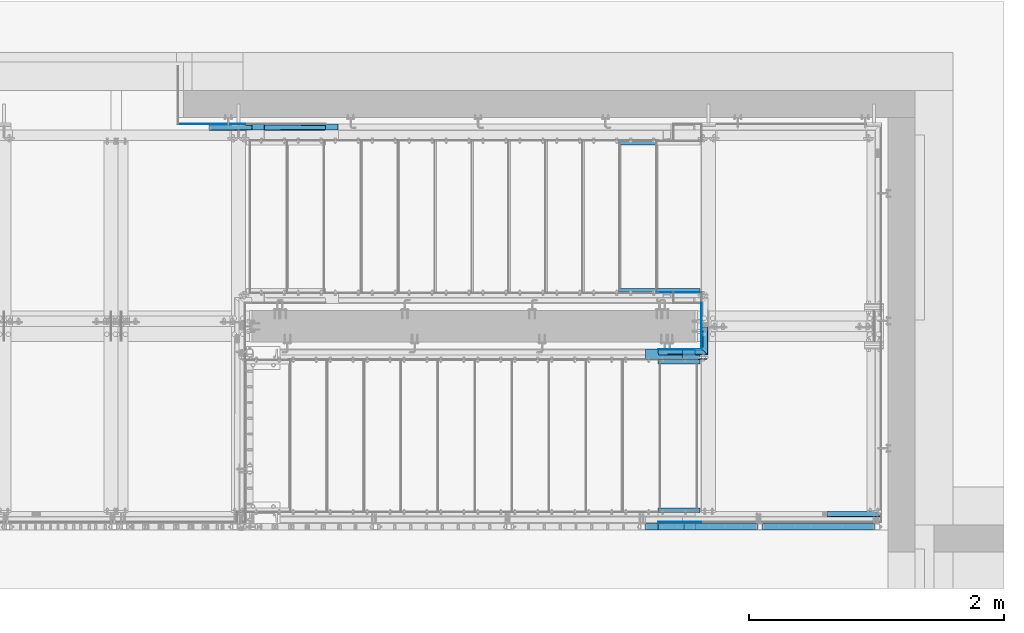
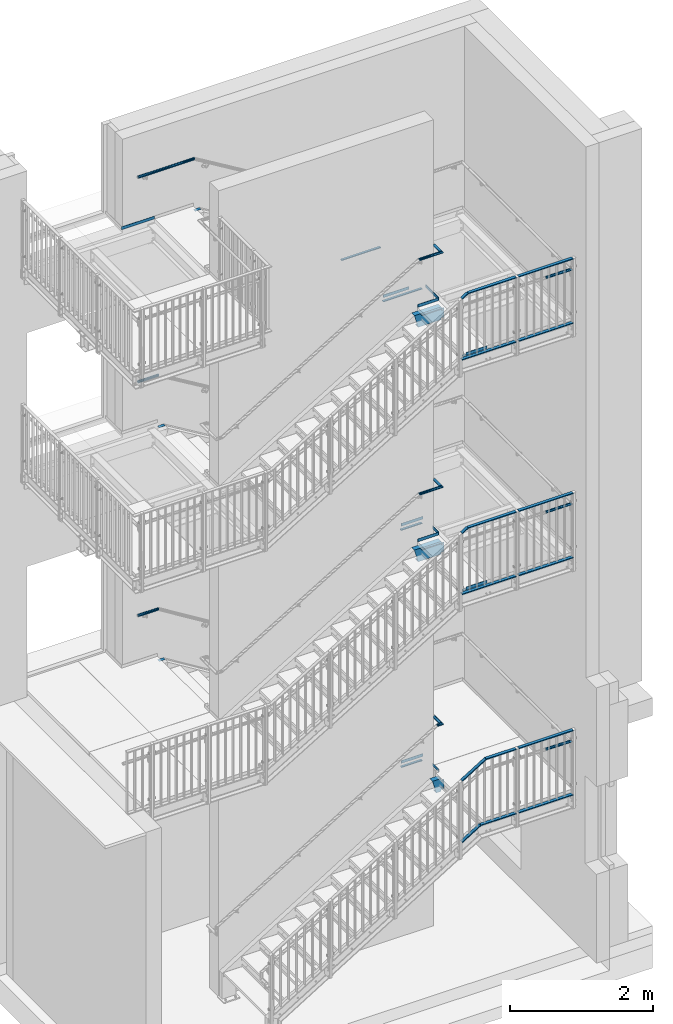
# One storey, part 43 of 410: 50 beams, 4 members, 12 openings.
"""IFC2X3 building model written with IfcOpenShell, lengths in millimetres."""

from ifc_helpers import new_model, entity, si_unit, converted_unit, point, frame, frame_2d, origin, origin_with_axes, origin_2d, origin_2d_with_axis, place, context, project, spatial, circle_curve, line_curve, trimmed, segment, composite_curve, rectangle, circle, hollow_circle, u_section, outline, extrude, clip, halfspace, material, element, save


model = new_model("IFC2X3")

# Units and contexts
model_context = context("Model", 3, precision=1e-09, world=origin_with_axes())
ifc_project = project(units=[si_unit("LENGTHUNIT", "METRE", prefix="MILLI"), si_unit("AREAUNIT", "SQUARE_METRE"), si_unit("VOLUMEUNIT", "CUBIC_METRE"), converted_unit("PLANEANGLEUNIT", "DEGREE", entity("IfcPlaneAngleMeasure", 0.01745329), si_unit("PLANEANGLEUNIT", "RADIAN"), dimensions=[0, 0, 0, 0, 0, 0, 0])], contexts=[model_context])

# Site, building, storey
site_placement = place(None, origin_with_axes())
site = spatial("IfcSite", under=ifc_project, at=site_placement, Name="mKR Teilneubau & Sanierung BA1 - Ostfildern", CompositionType="ELEMENT")
building_placement = place(site_placement, origin_with_axes())
building = spatial("IfcBuilding", under=site, at=building_placement, Name="Struktur 1", CompositionType="ELEMENT")
storey_placement = place(building_placement, origin_with_axes())
storey = spatial("IfcBuildingStorey", under=building, at=storey_placement, Name="Default Storey", CompositionType="ELEMENT", Elevation=0.0)

# Beam, openings
ifc_material = material(Name="S235JR")
beam_1_placement = place(None, frame((2094.098467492, 16741.399999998, -2315.6), z_axis=(-1.0, 0.0, 0.0), x_axis=(0.0, 1.0, 0.0)))
beam_1 = element("IfcBeam", 1, at=beam_1_placement, inside=storey, material=ifc_material, Name="-", ObjectType="-", context=model_context, shape_type="Clipping", body=[
    clip(clip(extrude(u_section(Depth=220.0, FlangeWidth=80.0, WebThickness=9.0, FlangeThickness=12.5, FilletRadius=12.5, EdgeRadius=6.0, FlangeSlope=4.574, at=frame_2d((18.6, 0.0))), origin(), (0.0, 0.0, 1.0), 652.408676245), halfspace(frame((-16741.399999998, -2315.6, 227.047999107), z_axis=(0.0, 0.0, 1.0), x_axis=(-1.0, 0.0, 0.0)), True)), halfspace(frame((-16741.399999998, -2591.759085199, 1119.989531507), z_axis=(0.0, -0.272750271, -0.962084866), x_axis=(1.0, 0.0, 0.0)), True)),
])
opening_1_placement = place(beam_1_placement, frame((-1481.4, -80.000000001, 226.246999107), z_axis=(-1.0, 0.0, 0.0), x_axis=(0.0, -1.0, 0.0)))
element("IfcOpeningElement", 2, at=opening_1_placement, cuts=beam_1, ObjectType="Opening", context=model_context, shape_type="SweptSolid", body=[
    extrude(outline(composite_curve([segment(trimmed(line_curve((0.0, 0.0), (1.0, 0.0), 30.799999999), [point((0.0, 0.0))], [point((30.799999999, 0.0))], True, "CARTESIAN"), True, "CONTINUOUS"), segment(trimmed(line_curve((30.799999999, 0.0), (0.0, 1.0), 52.85), [point((30.799999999, 0.0))], [point((30.799999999, 52.85))], True, "CARTESIAN"), True, "CONTINUOUS"), segment(trimmed(line_curve((30.799999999, 52.85), (-1.0, 0.0), 25.799999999), [point((30.799999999, 52.85))], [point((5.0, 52.85))], True, "CARTESIAN"), True, "CONTINUOUS"), segment(trimmed(circle_curve(frame_2d((5.0, 47.85), x_axis=(1.0, 0.0)), 5.0), [point((5.0, 52.85))], [point((0.0, 47.85))], True, "CARTESIAN"), True, "CONTINUOUS"), segment(trimmed(line_curve((0.0, 47.85), (0.0, -1.0), 47.85), [point((0.0, 47.85))], [point((0.0, 0.0))], True, "CARTESIAN"), True, "CONTINUOUS")], self_intersect=False)), origin(), (0.0, 0.0, -1.0), 3000.0),
])
opening_2_placement = place(beam_1_placement, frame((1518.6, 79.999999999, 226.246999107), z_axis=(1.0, 0.0, 0.0), x_axis=(0.0, 1.0, 0.0)))
element("IfcOpeningElement", 3, at=opening_2_placement, cuts=beam_1, ObjectType="Opening", context=model_context, shape_type="SweptSolid", body=[
    extrude(outline(composite_curve([segment(trimmed(line_curve((0.0, 0.0), (1.0, 0.0), 30.800000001), [point((0.0, 0.0))], [point((30.800000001, 0.0))], True, "CARTESIAN"), True, "CONTINUOUS"), segment(trimmed(line_curve((30.800000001, 0.0), (0.0, 1.0), 52.85), [point((30.800000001, 0.0))], [point((30.800000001, 52.85))], True, "CARTESIAN"), True, "CONTINUOUS"), segment(trimmed(line_curve((30.800000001, 52.85), (-1.0, 0.0), 25.800000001), [point((30.800000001, 52.85))], [point((5.0, 52.85))], True, "CARTESIAN"), True, "CONTINUOUS"), segment(trimmed(circle_curve(frame_2d((5.0, 47.85), x_axis=(1.0, 0.0)), 5.0), [point((5.0, 52.85))], [point((0.0, 47.85))], True, "CARTESIAN"), True, "CONTINUOUS"), segment(trimmed(line_curve((0.0, 47.85), (0.0, -1.0), 47.85), [point((0.0, 47.85))], [point((0.0, 0.0))], True, "CARTESIAN"), True, "CONTINUOUS")], self_intersect=False)), origin(), (0.0, 0.0, -1.0), 3000.0),
])
opening_3_placement = place(beam_1_placement, frame((-11.9, -50.0, 258.046999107), z_axis=(-1.0, 0.0, 0.0), x_axis=(0.0, 0.0, 1.0)))
element("IfcOpeningElement", 4, at=opening_3_placement, cuts=beam_1, ObjectType="Opening", context=model_context, shape_type="SweptSolid", body=[
    extrude(circle(Radius=9.001, at=frame_2d((0.0, 100.0), x_axis=(1.0, 0.0))), origin(), (0.0, 0.0, 1.0), 10.0),
])
opening_4_placement = place(beam_1_placement, frame((-11.9, -50.0, 258.046999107), z_axis=(-1.0, 0.0, 0.0), x_axis=(0.0, 0.0, 1.0)))
element("IfcOpeningElement", 5, at=opening_4_placement, cuts=beam_1, ObjectType="Opening", context=model_context, shape_type="SweptSolid", body=[
    extrude(circle(Radius=9.001, at=origin_2d_with_axis()), origin(), (0.0, 0.0, 1.0), 10.0),
])

beam_2_placement = place(None, frame((1149.361590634, 16741.399999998, 1743.0434785), z_axis=(1.0, 0.0, 0.0), x_axis=(0.0, 1.0, 0.0)))
beam_2 = element("IfcBeam", 6, at=beam_2_placement, inside=storey, material=ifc_material, Name="-", ObjectType="-", context=model_context, shape_type="Clipping", body=[
    clip(clip(extrude(u_section(Depth=220.0, FlangeWidth=80.0, WebThickness=9.0, FlangeThickness=12.5, FilletRadius=12.5, EdgeRadius=6.0, FlangeSlope=4.574, at=frame_2d((18.6, 0.0))), origin(), (0.0, 0.0, 1.0), 944.736876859), halfspace(frame((-16741.399999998, -1743.0434785, 717.688877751), z_axis=(0.0, 0.0, -1.0), x_axis=(-1.0, 0.0, 0.0)), True)), halfspace(frame((-16741.399999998, -1254.967899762, 613.50163448), z_axis=(0.0, 0.266827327, 0.963744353), x_axis=(1.0, 0.0, 0.0)), True)),
])
opening_5_placement = place(beam_2_placement, frame((-1481.4, 80.000000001, 718.489877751), z_axis=(-1.0, 0.0, 0.0), x_axis=(0.0, 1.0, 0.0)))
element("IfcOpeningElement", 7, at=opening_5_placement, cuts=beam_2, ObjectType="Opening", context=model_context, shape_type="SweptSolid", body=[
    extrude(outline(composite_curve([segment(trimmed(line_curve((0.0, 0.0), (1.0, 0.0), 30.799999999), [point((0.0, 0.0))], [point((30.799999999, 0.0))], True, "CARTESIAN"), True, "CONTINUOUS"), segment(trimmed(line_curve((30.799999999, 0.0), (0.0, 1.0), 52.85), [point((30.799999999, 0.0))], [point((30.799999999, 52.85))], True, "CARTESIAN"), True, "CONTINUOUS"), segment(trimmed(line_curve((30.799999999, 52.85), (-1.0, 0.0), 25.799999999), [point((30.799999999, 52.85))], [point((5.0, 52.85))], True, "CARTESIAN"), True, "CONTINUOUS"), segment(trimmed(circle_curve(frame_2d((5.0, 47.85), x_axis=(1.0, 0.0)), 5.0), [point((5.0, 52.85))], [point((0.0, 47.85))], True, "CARTESIAN"), True, "CONTINUOUS"), segment(trimmed(line_curve((0.0, 47.85), (0.0, -1.0), 47.85), [point((0.0, 47.85))], [point((0.0, 0.0))], True, "CARTESIAN"), True, "CONTINUOUS")], self_intersect=False)), origin(), (0.0, 0.0, -1.0), 3000.0),
])
opening_6_placement = place(beam_2_placement, frame((1518.6, -79.999999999, 718.489877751), z_axis=(1.0, 0.0, 0.0), x_axis=(0.0, -1.0, 0.0)))
element("IfcOpeningElement", 8, at=opening_6_placement, cuts=beam_2, ObjectType="Opening", context=model_context, shape_type="SweptSolid", body=[
    extrude(outline(composite_curve([segment(trimmed(line_curve((0.0, 0.0), (1.0, 0.0), 30.800000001), [point((0.0, 0.0))], [point((30.800000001, 0.0))], True, "CARTESIAN"), True, "CONTINUOUS"), segment(trimmed(line_curve((30.800000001, 0.0), (0.0, 1.0), 52.85), [point((30.800000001, 0.0))], [point((30.800000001, 52.85))], True, "CARTESIAN"), True, "CONTINUOUS"), segment(trimmed(line_curve((30.800000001, 52.85), (-1.0, 0.0), 25.800000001), [point((30.800000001, 52.85))], [point((5.0, 52.85))], True, "CARTESIAN"), True, "CONTINUOUS"), segment(trimmed(circle_curve(frame_2d((5.0, 47.85), x_axis=(1.0, 0.0)), 5.0), [point((5.0, 52.85))], [point((0.0, 47.85))], True, "CARTESIAN"), True, "CONTINUOUS"), segment(trimmed(line_curve((0.0, 47.85), (0.0, -1.0), 47.85), [point((0.0, 47.85))], [point((0.0, 0.0))], True, "CARTESIAN"), True, "CONTINUOUS")], self_intersect=False)), origin(), (0.0, 0.0, -1.0), 3000.0),
])
opening_7_placement = place(beam_2_placement, frame((-11.9, 50.0, 686.689877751), z_axis=(-1.0, 0.0, 0.0), x_axis=(0.0, 0.0, -1.0)))
element("IfcOpeningElement", 9, at=opening_7_placement, cuts=beam_2, ObjectType="Opening", context=model_context, shape_type="SweptSolid", body=[
    extrude(circle(Radius=9.001, at=frame_2d((0.0, 100.0), x_axis=(1.0, 0.0))), origin(), (0.0, 0.0, 1.0), 10.0),
])
opening_8_placement = place(beam_2_placement, frame((-11.9, 50.0, 686.689877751), z_axis=(-1.0, 0.0, 0.0), x_axis=(0.0, 0.0, -1.0)))
element("IfcOpeningElement", 10, at=opening_8_placement, cuts=beam_2, ObjectType="Opening", context=model_context, shape_type="SweptSolid", body=[
    extrude(circle(Radius=9.001, at=origin_2d_with_axis()), origin(), (0.0, 0.0, 1.0), 10.0),
])

beam_3_placement = place(None, frame((2094.098467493, 16741.399999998, 5755.0), z_axis=(-1.0, 0.0, 0.0), x_axis=(0.0, 1.0, 0.0)))
beam_3 = element("IfcBeam", 11, at=beam_3_placement, inside=storey, material=ifc_material, Name="-", ObjectType="-", context=model_context, shape_type="Clipping", body=[
    clip(clip(extrude(u_section(Depth=220.0, FlangeWidth=80.0, WebThickness=9.0, FlangeThickness=12.5, FilletRadius=12.5, EdgeRadius=6.0, FlangeSlope=4.574, at=frame_2d((18.6, 0.0))), origin(), (0.0, 0.0, 1.0), 944.20546182), halfspace(frame((-16741.399999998, 5755.0, 227.047999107), z_axis=(0.0, 0.0, 1.0), x_axis=(-1.0, 0.0, 0.0)), True)), halfspace(frame((-16741.399999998, 4975.331939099, -706.962808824), z_axis=(0.0, -0.268153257, -0.963376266), x_axis=(1.0, 0.0, 0.0)), True)),
])
opening_9_placement = place(beam_3_placement, frame((-1481.4, -80.000000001, 226.246999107), z_axis=(-1.0, 0.0, 0.0), x_axis=(0.0, -1.0, 0.0)))
element("IfcOpeningElement", 12, at=opening_9_placement, cuts=beam_3, ObjectType="Opening", context=model_context, shape_type="SweptSolid", body=[
    extrude(outline(composite_curve([segment(trimmed(line_curve((0.0, 0.0), (1.0, 0.0), 30.799999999), [point((0.0, 0.0))], [point((30.799999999, 0.0))], True, "CARTESIAN"), True, "CONTINUOUS"), segment(trimmed(line_curve((30.799999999, 0.0), (0.0, 1.0), 52.85), [point((30.799999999, 0.0))], [point((30.799999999, 52.85))], True, "CARTESIAN"), True, "CONTINUOUS"), segment(trimmed(line_curve((30.799999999, 52.85), (-1.0, 0.0), 25.799999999), [point((30.799999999, 52.85))], [point((5.0, 52.85))], True, "CARTESIAN"), True, "CONTINUOUS"), segment(trimmed(circle_curve(frame_2d((5.0, 47.85), x_axis=(1.0, 0.0)), 5.0), [point((5.0, 52.85))], [point((0.0, 47.85))], True, "CARTESIAN"), True, "CONTINUOUS"), segment(trimmed(line_curve((0.0, 47.85), (0.0, -1.0), 47.85), [point((0.0, 47.85))], [point((0.0, 0.0))], True, "CARTESIAN"), True, "CONTINUOUS")], self_intersect=False)), origin(), (0.0, 0.0, -1.0), 3000.0),
])
opening_10_placement = place(beam_3_placement, frame((1518.6, 79.999999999, 226.246999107), z_axis=(1.0, 0.0, 0.0), x_axis=(0.0, 1.0, 0.0)))
element("IfcOpeningElement", 13, at=opening_10_placement, cuts=beam_3, ObjectType="Opening", context=model_context, shape_type="SweptSolid", body=[
    extrude(outline(composite_curve([segment(trimmed(line_curve((0.0, 0.0), (1.0, 0.0), 30.800000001), [point((0.0, 0.0))], [point((30.800000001, 0.0))], True, "CARTESIAN"), True, "CONTINUOUS"), segment(trimmed(line_curve((30.800000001, 0.0), (0.0, 1.0), 52.85), [point((30.800000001, 0.0))], [point((30.800000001, 52.85))], True, "CARTESIAN"), True, "CONTINUOUS"), segment(trimmed(line_curve((30.800000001, 52.85), (-1.0, 0.0), 25.800000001), [point((30.800000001, 52.85))], [point((5.0, 52.85))], True, "CARTESIAN"), True, "CONTINUOUS"), segment(trimmed(circle_curve(frame_2d((5.0, 47.85), x_axis=(1.0, 0.0)), 5.0), [point((5.0, 52.85))], [point((0.0, 47.85))], True, "CARTESIAN"), True, "CONTINUOUS"), segment(trimmed(line_curve((0.0, 47.85), (0.0, -1.0), 47.85), [point((0.0, 47.85))], [point((0.0, 0.0))], True, "CARTESIAN"), True, "CONTINUOUS")], self_intersect=False)), origin(), (0.0, 0.0, -1.0), 3000.0),
])
opening_11_placement = place(beam_3_placement, frame((-11.9, -50.0, 258.046999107), z_axis=(-1.0, 0.0, 0.0), x_axis=(0.0, 0.0, 1.0)))
element("IfcOpeningElement", 14, at=opening_11_placement, cuts=beam_3, ObjectType="Opening", context=model_context, shape_type="SweptSolid", body=[
    extrude(circle(Radius=9.001, at=frame_2d((0.0, 100.0), x_axis=(1.0, 0.0))), origin(), (0.0, 0.0, 1.0), 10.0),
])
opening_12_placement = place(beam_3_placement, frame((-11.9, -50.0, 258.046999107), z_axis=(-1.0, 0.0, 0.0), x_axis=(0.0, 0.0, 1.0)))
element("IfcOpeningElement", 15, at=opening_12_placement, cuts=beam_3, ObjectType="Opening", context=model_context, shape_type="SweptSolid", body=[
    extrude(circle(Radius=9.001, at=origin_2d_with_axis()), origin(), (0.0, 0.0, 1.0), 10.0),
])

# Beams
beam_4_placement = place(None, frame((1183.477862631, 18422.499999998, 5857.5), z_axis=(-1.0, 0.0, 0.0), x_axis=(0.0, 0.0, -1.0)))
element("IfcBeam", 16, at=beam_4_placement, inside=storey, material=ifc_material, Name="-", ObjectType="-", context=model_context, shape_type="SweptSolid", body=[
    extrude(rectangle(XDim=15.0, YDim=35.0, at=origin_2d()), origin(), (0.0, 0.0, -1.0), 631.523605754),
])
for number, where, z_axis, x_axis in (
    (17, (1485.0, 16702.499999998, 1845.5434785), (1.0, 0.0, 0.0), (0.0, 0.0, 1.0)),
    (18, (1485.0, 16702.499999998, 5857.5), (1.0, 0.0, 0.0), (0.0, 0.0, 1.0)),
):
    element("IfcBeam", number, at=place(None, frame(where, z_axis=z_axis, x_axis=x_axis)), inside=storey, material=ifc_material, Name="-", ObjectType="-", context=model_context, shape_type="SweptSolid", body=[
        extrude(rectangle(XDim=15.0, YDim=35.0, at=origin_2d()), origin(), (0.0, 0.0, 1.0), 330.001468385),
    ])
beam_5_placement = place(None, frame((1183.477862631, 17257.499999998, 5857.5), z_axis=(-1.0, 0.0, 0.0), x_axis=(0.0, 0.0, 1.0)))
element("IfcBeam", 19, at=beam_5_placement, inside=storey, material=ifc_material, Name="-", ObjectType="-", context=model_context, shape_type="SweptSolid", body=[
    extrude(rectangle(XDim=15.0, YDim=35.0, at=origin_2d()), origin(), (0.0, 0.0, -1.0), 631.523605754),
])
for number, where, z_axis, x_axis in (
    (20, (1485.0, 15537.499999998, 5857.5), (1.0, 0.0, 0.0), (0.0, 0.0, -1.0)),
    (21, (1485.0, 15537.499999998, 1845.5434785), (1.0, 0.0, 0.0), (0.0, 0.0, -1.0)),
):
    element("IfcBeam", number, at=place(None, frame(where, z_axis=z_axis, x_axis=x_axis)), inside=storey, material=ifc_material, Name="-", ObjectType="-", context=model_context, shape_type="SweptSolid", body=[
        extrude(rectangle(XDim=15.0, YDim=35.0, at=origin_2d()), origin(), (0.0, 0.0, 1.0), 330.001468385),
    ])
beam_6_placement = place(None, frame((1472.302143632, 17257.499999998, 1845.5434785), z_axis=(-1.0, 0.0, 0.0), x_axis=(0.0, 0.0, 1.0)))
element("IfcBeam", 22, at=beam_6_placement, inside=storey, material=ifc_material, Name="-", ObjectType="-", context=model_context, shape_type="SweptSolid", body=[
    extrude(rectangle(XDim=15.0, YDim=35.0, at=origin_2d()), origin(), (0.0, 0.0, -1.0), 342.698324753),
])
beam_7_placement = place(None, frame((1477.451209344, 17257.499999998, -2213.1), z_axis=(-1.0, 0.0, 0.0), x_axis=(0.0, 0.0, 1.0)))
element("IfcBeam", 23, at=beam_7_placement, inside=storey, material=ifc_material, Name="-", ObjectType="-", context=model_context, shape_type="SweptSolid", body=[
    extrude(rectangle(XDim=15.0, YDim=35.0, at=origin_2d()), origin(), (0.0, 0.0, -1.0), 337.549259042),
])
for number, where, z_axis, x_axis in (
    (24, (2305.501468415, 15405.999999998, 7017.5), (-1.0, 0.0, 0.0), (0.0, 0.0, -1.0)),
    (25, (3184.501468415, 15405.999999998, 5917.5), (1.0, 0.0, 0.0), (0.0, 0.0, 1.0)),
    (26, (2305.501468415, 15405.999999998, -1053.1), (-1.0, 0.0, 0.0), (0.0, 0.0, -1.0)),
    (27, (3184.501468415, 15405.999999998, -2153.1), (1.0, 0.0, 0.0), (0.0, 0.0, 1.0)),
):
    element("IfcBeam", number, at=place(None, frame(where, z_axis=z_axis, x_axis=x_axis)), inside=storey, material=ifc_material, Name="-", ObjectType="-", context=model_context, shape_type="SweptSolid", body=[
        extrude(rectangle(XDim=15.0, YDim=50.0, at=origin_2d()), origin(), (0.0, 0.0, -1.0), 879.0),
    ])
beam_8_placement = place(None, frame((1184.0, 17243.999999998, 5950.0), z_axis=(-1.0, 0.0, 0.0), x_axis=(0.0, -1.0, 0.0)))
element("IfcBeam", 28, at=beam_8_placement, inside=storey, material=ifc_material, Name="-", ObjectType="-", context=model_context, shape_type="SweptSolid", body=[
    extrude(rectangle(XDim=4.0, YDim=50.0, at=origin_2d()), origin(), (0.0, 0.0, -1.0), 419.002468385),
])
for number, where, z_axis, x_axis in (
    (29, (1474.0, 17243.999999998, 1938.0434785), (-1.0, 0.0, 0.0), (0.0, -1.0, 0.0)),
    (30, (1474.0, 17243.999999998, -2120.6), (-1.0, 0.0, 0.0), (0.0, -1.0, 0.0)),
):
    element("IfcBeam", number, at=place(None, frame(where, z_axis=z_axis, x_axis=x_axis)), inside=storey, material=ifc_material, Name="-", ObjectType="-", context=model_context, shape_type="SweptSolid", body=[
        extrude(rectangle(XDim=4.0, YDim=50.0, at=origin_2d()), origin(), (0.0, 0.0, -1.0), 349.001468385),
    ])
for number, where, z_axis, x_axis in (
    (31, (1485.0, 16797.999999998, 1938.0434785), (-1.0, 0.0, 0.0), (0.0, -1.0, 0.0)),
    (32, (1485.0, 16797.999999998, 5950.0), (-1.0, 0.0, 0.0), (0.0, -1.0, 0.0)),
):
    element("IfcBeam", number, at=place(None, frame(where, z_axis=z_axis, x_axis=x_axis)), inside=storey, material=ifc_material, Name="-", ObjectType="-", context=model_context, shape_type="SweptSolid", body=[
        extrude(rectangle(XDim=4.0, YDim=50.0, at=origin_2d()), origin(), (0.0, 0.0, -1.0), 338.001468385),
    ])
beam_9_placement = place(None, frame((-1754.998529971, 18567.999459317, 7525.0), z_axis=(1.0, 8.64e-07, 0.0), x_axis=(-8.64e-07, 1.0, 0.0)))
element("IfcBeam", 33, at=beam_9_placement, inside=storey, material=ifc_material, Name="-", ObjectType="-", context=model_context, shape_type="SweptSolid", body=[
    extrude(rectangle(XDim=4.0, YDim=50.0, at=origin_2d()), origin(), (0.0, 0.0, -1.0), 531.498847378),
])
beam_10_placement = place(None, frame((1827.001468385, 16979.0, -2120.6), z_axis=(0.0, 1.0, 0.0), x_axis=(-1.0, 0.0, 0.0)))
element("IfcBeam", 34, at=beam_10_placement, inside=storey, material=ifc_material, Name="-", ObjectType="-", context=model_context, shape_type="SweptSolid", body=[
    extrude(rectangle(XDim=4.0, YDim=50.0, at=origin_2d()), origin(), (0.0, 0.0, -1.0), 179.001000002),
])
beam_11_placement = place(None, frame((1827.001468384, 16978.999999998, 1938.0434785), z_axis=(0.0, 1.0, 0.0), x_axis=(-1.0, 0.0, 0.0)))
element("IfcBeam", 35, at=beam_11_placement, inside=storey, material=ifc_material, Name="-", ObjectType="-", context=model_context, shape_type="SweptSolid", body=[
    extrude(rectangle(XDim=4.0, YDim=50.0, at=origin_2d()), origin(), (0.0, 0.0, -1.0), 183.000000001),
])
beam_12_placement = place(None, frame((1485.0, 15441.999999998, 1938.0434785), z_axis=(-1.0, 0.0, 0.0), x_axis=(0.0, -1.0, 0.0)))
element("IfcBeam", 36, at=beam_12_placement, inside=storey, material=ifc_material, Name="-", ObjectType="-", context=model_context, shape_type="SweptSolid", body=[
    extrude(rectangle(XDim=4.0, YDim=50.0, at=origin_2d()), origin(), (0.0, 0.0, -1.0), 338.001468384),
])
beam_13_placement = place(None, frame((1485.0, 15441.999999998, 5950.0), z_axis=(-1.0, 0.0, 0.0), x_axis=(0.0, -1.0, 0.0)))
element("IfcBeam", 37, at=beam_13_placement, inside=storey, material=ifc_material, Name="-", ObjectType="-", context=model_context, shape_type="SweptSolid", body=[
    extrude(rectangle(XDim=4.0, YDim=50.0, at=origin_2d()), origin(), (0.0, 0.0, -1.0), 338.001468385),
])
beam_14_placement = place(None, frame((1827.001468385, 17163.999999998, 5950.0), z_axis=(0.0, 1.0, 0.0), x_axis=(-1.0, 0.0, 0.0)))
element("IfcBeam", 38, at=beam_14_placement, inside=storey, material=ifc_material, Name="-", ObjectType="-", context=model_context, shape_type="SweptSolid", body=[
    extrude(rectangle(XDim=4.0, YDim=50.0, at=origin_2d()), origin(), (0.0, 0.0, -1.0), 182.999999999),
])
beam_15_placement = place(None, frame((1827.001468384, 16978.999999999, 5950.0), z_axis=(0.0, 1.0, 0.0), x_axis=(-1.0, 0.0, 0.0)))
element("IfcBeam", 39, at=beam_15_placement, inside=storey, material=ifc_material, Name="-", ObjectType="-", context=model_context, shape_type="SweptSolid", body=[
    extrude(rectangle(XDim=4.0, YDim=50.0, at=origin_2d()), origin(), (0.0, 0.0, -1.0), 183.000000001),
])
beam_16_placement = place(None, frame((-1125.000153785, 18544.999427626, 7437.49977066), z_axis=(-1.0, -5.838e-06, 3.131e-06), x_axis=(3.131e-06, 0.0, 1.0)))
element("IfcBeam", 40, at=beam_16_placement, inside=storey, material=ifc_material, Name="-", ObjectType="-", context=model_context, shape_type="SweptSolid", body=[
    extrude(rectangle(XDim=5.0, YDim=50.0, at=origin_2d()), origin(), (0.0, 0.0, -1.0), 98.037723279),
])
beam_17_placement = place(None, frame((-1606.333490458, 18544.999999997, 3937.499466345), z_axis=(1.0, 2.095e-06, -1.118e-06), x_axis=(-1.118e-06, 0.0, -1.0)))
element("IfcBeam", 41, at=beam_17_placement, inside=storey, material=ifc_material, Name="-", ObjectType="-", context=model_context, shape_type="SweptSolid", body=[
    extrude(rectangle(XDim=5.0, YDim=50.0, at=origin_2d()), origin(), (0.0, 0.0, -1.0), 98.666564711),
])
beam_18_placement = place(None, frame((-1705.000002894, 18544.999999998, -62.500434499), z_axis=(-1.0, 0.0, 1.158e-06), x_axis=(1.158e-06, 0.0, 1.0)))
element("IfcBeam", 42, at=beam_18_placement, inside=storey, material=ifc_material, Name="-", ObjectType="-", context=model_context, shape_type="SweptSolid", body=[
    extrude(rectangle(XDim=5.0, YDim=50.0, at=origin_2d()), origin(), (0.0, 0.0, -1.0), 95.896746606),
])
beam_19_placement = place(None, frame((1385.501468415, 15405.999999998, 5917.5), z_axis=(-1.0, 0.0, 0.0), x_axis=(0.0, 0.0, -1.0)))
element("IfcBeam", 43, at=beam_19_placement, inside=storey, material=ifc_material, Name="-", ObjectType="-", context=model_context, shape_type="SweptSolid", body=[
    extrude(rectangle(XDim=15.0, YDim=50.0, at=origin_2d()), origin(), (0.0, 0.0, -1.0), 879.0),
])
beam_20_placement = place(None, frame((2264.501468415, 15405.999999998, 7017.5), z_axis=(1.0, 0.0, 0.0), x_axis=(0.0, 0.0, 1.0)))
element("IfcBeam", 44, at=beam_20_placement, inside=storey, material=ifc_material, Name="-", ObjectType="-", context=model_context, shape_type="SweptSolid", body=[
    extrude(rectangle(XDim=15.0, YDim=50.0, at=origin_2d()), origin(), (0.0, 0.0, -1.0), 775.32625775),
])

# Member
member_1_placement = place(None, frame((1485.300223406, 15405.999999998, 7016.421407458), z_axis=(0.856187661, 0.0, 0.516664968), x_axis=(-0.516664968, 0.0, 0.856187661)))
element("IfcMember", 45, at=member_1_placement, inside=storey, material=ifc_material, Name="-", ObjectType="-", context=model_context, shape_type="SweptSolid", body=[
    extrude(rectangle(XDim=15.0, YDim=50.0, at=origin_2d()), origin(), (0.0, 0.0, -1.0), 112.035914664),
])

# Beams
for number, where, z_axis, x_axis in (
    (46, (2305.501468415, 15405.999999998, 3005.5434785), (-1.0, 0.0, 0.0), (0.0, 0.0, -1.0)),
    (47, (3184.501468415, 15405.999999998, 1905.5434785), (1.0, 0.0, 0.0), (0.0, 0.0, 1.0)),
):
    element("IfcBeam", number, at=place(None, frame(where, z_axis=z_axis, x_axis=x_axis)), inside=storey, material=ifc_material, Name="-", ObjectType="-", context=model_context, shape_type="SweptSolid", body=[
        extrude(rectangle(XDim=15.0, YDim=50.0, at=origin_2d()), origin(), (0.0, 0.0, -1.0), 879.0),
    ])

# Member
member_2_placement = place(None, frame((1485.295678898, 15405.999999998, 3004.475526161), z_axis=(0.857606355, 0.0, 0.51430666), x_axis=(-0.51430666, 0.0, 0.857606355)))
element("IfcMember", 48, at=member_2_placement, inside=storey, material=ifc_material, Name="-", ObjectType="-", context=model_context, shape_type="SweptSolid", body=[
    extrude(rectangle(XDim=15.0, YDim=50.0, at=origin_2d()), origin(), (0.0, 0.0, -1.0), 111.865904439),
])

# Beams
beam_21_placement = place(None, frame((1385.501468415, 15405.999999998, 1905.5434785), z_axis=(-1.0, 0.0, 0.0), x_axis=(0.0, 0.0, -1.0)))
element("IfcBeam", 49, at=beam_21_placement, inside=storey, material=ifc_material, Name="-", ObjectType="-", context=model_context, shape_type="SweptSolid", body=[
    extrude(rectangle(XDim=15.0, YDim=50.0, at=origin_2d()), origin(), (0.0, 0.0, -1.0), 879.0),
])
beam_22_placement = place(None, frame((2264.501468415, 15405.999999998, 3005.5434785), z_axis=(1.0, 0.0, 0.0), x_axis=(0.0, 0.0, 1.0)))
element("IfcBeam", 50, at=beam_22_placement, inside=storey, material=ifc_material, Name="-", ObjectType="-", context=model_context, shape_type="SweptSolid", body=[
    extrude(rectangle(XDim=15.0, YDim=50.0, at=origin_2d()), origin(), (0.0, 0.0, -1.0), 775.348489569),
])
beam_23_placement = place(None, frame((2264.501468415, 15405.999999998, -1053.1), z_axis=(1.0, 0.0, 0.0), x_axis=(0.0, 0.0, 1.0)))
element("IfcBeam", 51, at=beam_23_placement, inside=storey, material=ifc_material, Name="-", ObjectType="-", context=model_context, shape_type="SweptSolid", body=[
    extrude(rectangle(XDim=15.0, YDim=50.0, at=origin_2d()), origin(), (0.0, 0.0, -1.0), 485.248980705),
])

# Members
member_3_placement = place(None, frame((1775.316354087, 15405.999999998, -1054.215890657), z_axis=(0.851214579, 0.0, 0.524817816), x_axis=(-0.524817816, 0.0, 0.851214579)))
element("IfcMember", 52, at=member_3_placement, inside=storey, material=ifc_material, Name="-", ObjectType="-", context=model_context, shape_type="SweptSolid", body=[
    extrude(rectangle(XDim=15.0, YDim=50.0, at=origin_2d()), origin(), (0.0, 0.0, -1.0), 453.327235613),
])
member_4_placement = place(None, frame((1389.437602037, 15405.999999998, -2339.264464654), z_axis=(-0.851214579, 0.0, -0.524817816), x_axis=(0.524817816, 0.0, -0.851214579)))
element("IfcMember", 53, at=member_4_placement, inside=storey, material=ifc_material, Name="-", ObjectType="-", context=model_context, shape_type="SweptSolid", body=[
    extrude(rectangle(XDim=15.0, YDim=50.0, at=origin_2d()), origin(), (0.0, 0.0, -1.0), 352.595830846),
])

# Beams
beam_24_placement = place(None, frame((1693.5084474, 15405.999999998, -2153.1), z_axis=(-1.0, 0.0, 0.0), x_axis=(0.0, 0.0, -1.0)))
element("IfcBeam", 54, at=beam_24_placement, inside=storey, material=ifc_material, Name="-", ObjectType="-", context=model_context, shape_type="SweptSolid", body=[
    extrude(rectangle(XDim=15.0, YDim=50.0, at=origin_2d()), origin(), (0.0, 0.0, -1.0), 570.993021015),
])
beam_25_placement = place(None, frame((-2039.997379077, 18539.999977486, 8328.799465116), z_axis=(-1.0, 0.0, 0.0), x_axis=(0.0, -1.0, 0.0)))
element("IfcBeam", 55, at=beam_25_placement, inside=storey, Name="-", ObjectType="-", context=model_context, shape_type="Clipping", body=[
    clip(extrude(hollow_circle(Radius=21.2, WallThickness=3.2, at=origin_2d()), origin(), (0.0, 0.0, -1.0), 940.21839939), halfspace(frame((18539.999977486, -7437.758904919, 1161.184423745), z_axis=(0.0, 0.268153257, 0.963376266), x_axis=(1.0, 0.0, 0.0)), True)),
])
beam_26_placement = place(None, frame((-1679.759460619, 18539.999999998, 4828.799478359), z_axis=(1.0, 0.0, 0.0), x_axis=(0.0, 1.0, 0.0)))
element("IfcBeam", 56, at=beam_26_placement, inside=storey, Name="-", ObjectType="-", context=model_context, shape_type="Clipping", body=[
    clip(extrude(hollow_circle(Radius=21.2, WallThickness=3.2, at=origin_2d()), origin(), (0.0, 0.0, -1.0), 360.237918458), halfspace(frame((-18539.999999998, -4045.048455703, -1151.043627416), z_axis=(0.0, 0.266827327, -0.963744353), x_axis=(-1.0, 0.0, 0.0)), True)),
])
beam_27_placement = place(None, frame((-2039.997379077, 18539.999977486, 828.799463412), z_axis=(-1.0, 0.0, 0.0), x_axis=(0.0, -1.0, 0.0)))
element("IfcBeam", 57, at=beam_27_placement, inside=storey, Name="-", ObjectType="-", context=model_context, shape_type="Clipping", body=[
    clip(extrude(hollow_circle(Radius=21.2, WallThickness=3.2, at=origin_2d()), origin(), (0.0, 0.0, -1.0), 360.150938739), halfspace(frame((18539.999977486, -318.158466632, -238.789362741), z_axis=(0.0, 0.272750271, 0.962084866), x_axis=(1.0, 0.0, 0.0)), True)),
])
beam_28_placement = place(None, frame((1459.779866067, 16775.0, 6753.8), z_axis=(-1.0, 0.0, 0.0), x_axis=(0.0, -1.0, 0.0)))
element("IfcBeam", 58, at=beam_28_placement, inside=storey, Name="-", ObjectType="-", context=model_context, shape_type="Clipping", body=[
    clip(clip(extrude(hollow_circle(Radius=21.2, WallThickness=3.2, at=origin_2d()), origin(), (0.0, 0.0, -1.0), 437.620133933), halfspace(frame((16775.0, -5883.011695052, -1668.643014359), z_axis=(0.0, 0.268153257, -0.963376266), x_axis=(-1.0, 0.0, 0.0)), True)), halfspace(frame((7460.000707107, -6753.8, -7855.219426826), z_axis=(0.707106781, 0.0, 0.707106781), x_axis=(0.707106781, 0.0, -0.707106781)), True)),
])
beam_29_placement = place(None, frame((1459.76033129, 16775.0, 2741.8434785), z_axis=(-1.0, 0.0, 0.0), x_axis=(0.0, -1.0, 0.0)))
element("IfcBeam", 59, at=beam_29_placement, inside=storey, Name="-", ObjectType="-", context=model_context, shape_type="Clipping", body=[
    clip(clip(extrude(hollow_circle(Radius=21.2, WallThickness=3.2, at=origin_2d()), origin(), (0.0, 0.0, -1.0), 437.63966871), halfspace(frame((16775.0, -2163.250600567, -630.039181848), z_axis=(0.0, 0.266827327, -0.963744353), x_axis=(-1.0, 0.0, 0.0)), True)), halfspace(frame((7460.000707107, -2741.8434785, -7855.238961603), z_axis=(0.707106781, 0.0, 0.707106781), x_axis=(0.707106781, 0.0, -0.707106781)), True)),
])
beam_30_placement = place(None, frame((1897.4, 16775.0, -1316.8), z_axis=(1.0, 0.0, 0.0), x_axis=(0.0, 1.0, 0.0)))
element("IfcBeam", 60, at=beam_30_placement, inside=storey, Name="-", ObjectType="-", context=model_context, shape_type="Clipping", body=[
    clip(clip(extrude(hollow_circle(Radius=21.2, WallThickness=3.2, at=origin_2d()), origin(), (0.0, 0.0, -1.0), 147.552689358), halfspace(frame((-16775.0, 1686.192889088, -594.423080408), z_axis=(0.0, 0.272750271, 0.962084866), x_axis=(1.0, 0.0, 0.0)), True)), halfspace(frame((-7460.000707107, 1316.8, 7417.599292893), z_axis=(-0.707106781, 0.0, -0.707106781), x_axis=(-0.707106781, 0.0, 0.707106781)), True)),
])
beam_31_placement = place(None, frame((1855.0, 16975.0, -1316.8), z_axis=(0.0, 1.0, 0.0), x_axis=(-1.0, 0.0, 0.0)))
element("IfcBeam", 61, at=beam_31_placement, inside=storey, Name="-", ObjectType="-", context=model_context, shape_type="Clipping", body=[
    clip(extrude(hollow_circle(Radius=21.2, WallThickness=3.2, at=origin_2d()), origin(), (0.0, 0.0, -1.0), 242.4), halfspace(frame((-7460.000707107, 1316.8, -7659.999292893), z_axis=(-0.707106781, 0.0, 0.707106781), x_axis=(0.707106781, 0.0, 0.707106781)), True)),
])
beam_32_placement = place(None, frame((1855.0, 16975.000011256, 2741.8434785), z_axis=(0.0, 1.0, 0.0), x_axis=(-1.0, 0.0, 0.0)))
element("IfcBeam", 62, at=beam_32_placement, inside=storey, Name="-", ObjectType="-", context=model_context, shape_type="Clipping", body=[
    clip(extrude(hollow_circle(Radius=21.2, WallThickness=3.2, at=origin_2d()), origin(), (0.0, 0.0, -1.0), 242.400011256), halfspace(frame((-7460.000707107, -2741.8434785, -7659.999304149), z_axis=(-0.707106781, 0.0, 0.707106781), x_axis=(0.707106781, 0.0, 0.707106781)), True)),
])
beam_33_placement = place(None, frame((1855.0, 16974.999996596, 6753.8), z_axis=(0.0, 1.0, 0.0), x_axis=(-1.0, 0.0, 0.0)))
element("IfcBeam", 63, at=beam_33_placement, inside=storey, Name="-", ObjectType="-", context=model_context, shape_type="Clipping", body=[
    clip(extrude(hollow_circle(Radius=21.2, WallThickness=3.2, at=origin_2d()), origin(), (0.0, 0.0, -1.0), 242.399996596), halfspace(frame((-7460.000707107, -6753.8, -7659.99928949), z_axis=(-0.707106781, 0.0, 0.707106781), x_axis=(0.707106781, 0.0, 0.707106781)), True)),
])
beam_34_placement = place(None, frame((2809.999216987, 15505.999999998, 2741.8434785), z_axis=(-1.0, 0.0, 0.0), x_axis=(0.0, -1.0, 0.0)))
element("IfcBeam", 64, at=beam_34_placement, inside=storey, Name="-", ObjectType="-", context=model_context, shape_type="Clipping", body=[
    clip(extrude(hollow_circle(Radius=21.2, WallThickness=3.2, at=origin_2d()), origin(), (0.0, 0.0, -1.0), 442.4), halfspace(frame((6148.001098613, -2741.8434785, -6547.999684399), z_axis=(0.707106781, 0.0, 0.707106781), x_axis=(0.707106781, 0.0, -0.707106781)), True)),
])
beam_35_placement = place(None, frame((3252.399216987, 15505.999999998, -1316.8), z_axis=(1.0, 0.0, 0.0), x_axis=(0.0, 1.0, 0.0)))
element("IfcBeam", 65, at=beam_35_placement, inside=storey, Name="-", ObjectType="-", context=model_context, shape_type="Clipping", body=[
    clip(extrude(hollow_circle(Radius=21.2, WallThickness=3.2, at=origin_2d()), origin(), (0.0, 0.0, -1.0), 442.4), halfspace(frame((-6148.001098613, 1316.8, 6105.599684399), z_axis=(-0.707106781, 0.0, -0.707106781), x_axis=(-0.707106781, 0.0, 0.707106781)), True)),
])
beam_36_placement = place(None, frame((2809.999216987, 15505.999999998, 6753.8), z_axis=(-1.0, 0.0, 0.0), x_axis=(0.0, -1.0, 0.0)))
element("IfcBeam", 66, at=beam_36_placement, inside=storey, Name="-", ObjectType="-", context=model_context, shape_type="Clipping", body=[
    clip(extrude(hollow_circle(Radius=21.2, WallThickness=3.2, at=origin_2d()), origin(), (0.0, 0.0, -1.0), 442.4), halfspace(frame((6148.001098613, -6753.8, -6547.999684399), z_axis=(0.707106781, 0.0, 0.707106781), x_axis=(0.707106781, 0.0, -0.707106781)), True)),
])

save(model, "model.ifc")
